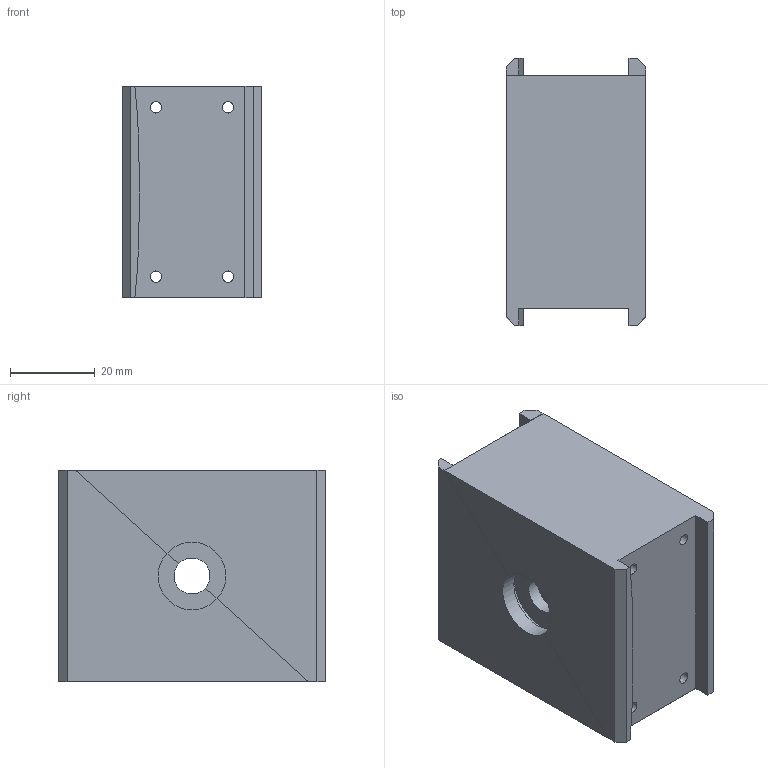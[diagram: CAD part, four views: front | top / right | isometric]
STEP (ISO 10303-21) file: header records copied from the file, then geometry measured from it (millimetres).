
FILE_DESCRIPTION(/* description */ (''),/* implementation_level */ '2;1');
FILE_NAME(/* name */ 'Outer Ring Bering Boss v8.step',/* time_stamp */ '2025-04-15T21:42:40+01:00',/* author */ (''),/* organization */ (''),/* preprocessor_version */ 'ST-DEVELOPER v20.1',/* originating_system */ 'Autodesk Translation Framework v14.4.0.0',/* authorisation */ '');
FILE_SCHEMA (('AUTOMOTIVE_DESIGN { 1 0 10303 214 3 1 1 }'));
Length unit declared in the file: millimetre
Products named in the file (1): Outer Ring Bering Boss
Bounding box: 33 x 63 x 50 mm (x, y, z)
Volume: 87208.4 mm3; surface area: 21788 mm2
Topology: 2 solids, 2 shells, 172 faces, 500 edges, 332 vertices
Faces by surface type: cylinder 112, plane 48, cone 10, torus 2
Full cylindrical faces by diameter (mm): 2.7 x8
Entity records: 5858 total; most frequent: DIRECTION 1088, CARTESIAN_POINT 1005, ORIENTED_EDGE 1000, EDGE_CURVE 500, AXIS2_PLACEMENT_3D 415, VERTEX_POINT 332, LINE 258, VECTOR 258
